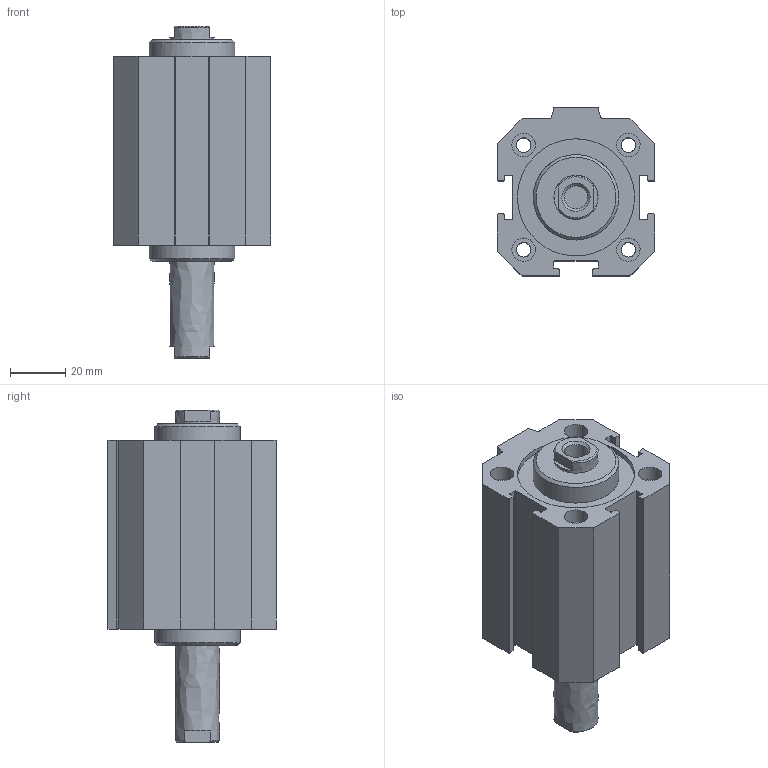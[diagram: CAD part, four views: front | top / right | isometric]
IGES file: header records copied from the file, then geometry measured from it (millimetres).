
Global section: file name: 1514_40_0030; native system: Autodesk Inventor 2014; preprocessor: unknown; author: A. Manieri; date: 20160824.120211; units: millimetre
Bounding box: 57 x 61 x 120.5 mm (x, y, z)
Volume: 172400.9 mm3; surface area: 51088.6 mm2
Topology: 2 solids, 2 shells, 130 faces, 339 edges, 233 vertices
Faces by surface type: bspline 130
